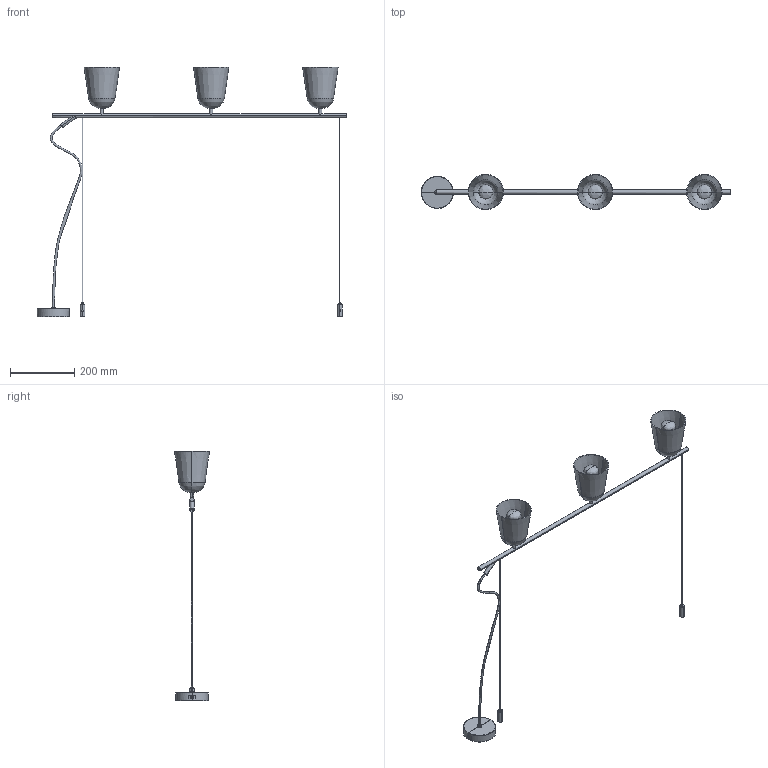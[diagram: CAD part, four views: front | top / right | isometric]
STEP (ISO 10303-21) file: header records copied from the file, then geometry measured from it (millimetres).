
FILE_DESCRIPTION(/* description */ (''),/* implementation_level */ '2;1');
FILE_NAME(/* name */ '28266.step',/* time_stamp */ '2024-06-11T08:57:31+02:00',/* author */ ('RenataManzini'),/* organization */ (''),/* preprocessor_version */ 'ST-DEVELOPER v20',/* originating_system */ 'AutoCAD Mechanical',/* authorisation */ '');
FILE_SCHEMA (('AUTOMOTIVE_DESIGN { 1 0 10303 214 3 1 1 }'));
Length unit declared in the file: millimetre
Products named in the file (2): Product; studio_colgante_lineal_110 - Florón Multiple-467892-_3D_
Assembly tree (1 placements, depth 2):
  Product
    studio_colgante_lineal_110 - Florón Multiple-467892-_3D_
Bounding box: 963 x 110.05 x 775.31 mm (x, y, z)
Volume: 641752.3 mm3; surface area: 367492.2 mm2
Topology: 18 solids, 18 shells, 222 faces, 449 edges, 254 vertices
Faces by surface type: plane 88, cylinder 74, bspline 32, cone 20, torus 8
Entity records: 14585 total; most frequent: CARTESIAN_POINT 10176, DIRECTION 893, ORIENTED_EDGE 880, EDGE_CURVE 440, AXIS2_PLACEMENT_3D 357, VERTEX_POINT 249, EDGE_LOOP 237, FACE_OUTER_BOUND 222
